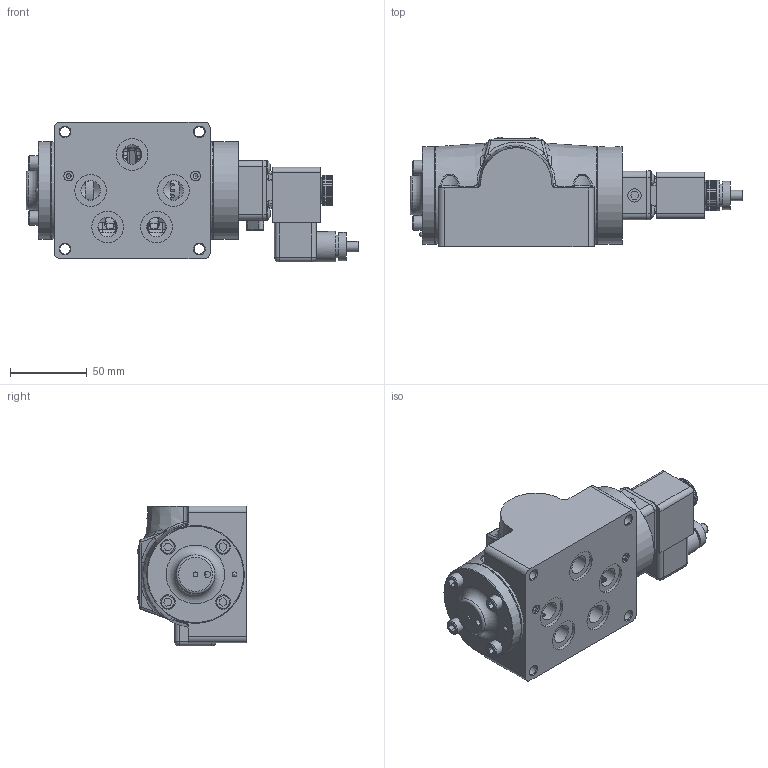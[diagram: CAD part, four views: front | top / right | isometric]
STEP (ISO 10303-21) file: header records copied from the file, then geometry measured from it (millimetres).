
FILE_DESCRIPTION(/* description */ (''),/* implementation_level */ '2;1');
FILE_NAME(/* name */ 'ESO4PTOLZ.stp',/* time_stamp */ '2026-07-17T06:32:35-04:00',/* author */ ('rmckenna'),/* organization */ (''),/* preprocessor_version */ 'ST-DEVELOPER v20.1',/* originating_system */ 'Autodesk Inventor 2026',/* authorisation */ '');
FILE_SCHEMA (('AUTOMOTIVE_DESIGN { 1 0 10303 214 3 1 1 }'));
Products named in the file (1): Part7
Bounding box: 215.96 x 71.21 x 90.93 mm (x, y, z)
Volume: 593386.6 mm3; surface area: 137733.1 mm2
Topology: 3 solids, 40 shells, 2321 faces, 5728 edges, 3554 vertices
Faces by surface type: plane 903, cylinder 594, bspline 329, cone 313, torus 155, sphere 27
Full cylindrical faces by diameter (mm): 1.3 x1, 1.397 x1, 1.5 x1, 2.032 x8, 2.07 x2, 2.261 x2, 2.35 x4, 2.388 x1, 2.5 x1, 2.778 x2, 2.8 x1, 3 x4, 3.048 x5, 3.175 x5, 3.4 x1, 3.683 x5, 3.969 x1, 4.191 x2, 4.826 x4, 4.978 x8, 5.15 x4, 5.156 x4, 5.5 x1, 5.556 x1, 6.35 x10, 6.629 x4, 6.65 x1, 6.731 x1, 6.747 x4, 7.137 x4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
Entity records: 87328 total; most frequent: CARTESIAN_POINT 32234, ORIENTED_EDGE 11368, DIRECTION 10158, EDGE_CURVE 5684, AXIS2_PLACEMENT_3D 3799, VERTEX_POINT 3553, LINE 2560, VECTOR 2560
